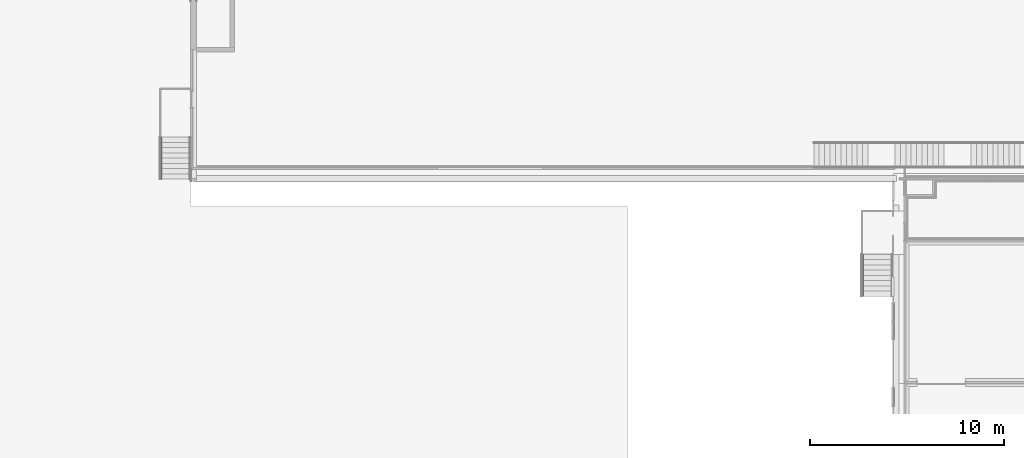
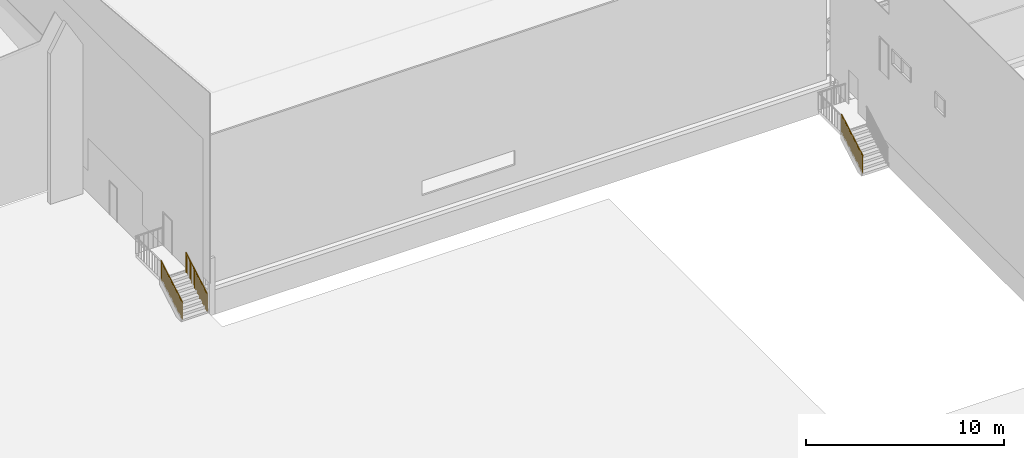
# One storey, part 56 of 64: 3 railings, 2 elements without a shape of their own.
"""IFC2X3 building model written with IfcOpenShell, lengths in millimetres."""

from ifc_helpers import new_model, entity, si_unit, converted_unit, derived_unit, direction, frame, origin, place, context, subcontext, project, spatial, polyline, outline, extrude, element, aggregate, save


model = new_model("IFC2X3")

# Units and contexts
model_context = context("Model", 3, precision=0.01, world=origin(), true_north=direction((4.05803320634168e-15, -1.0)))
body_context = subcontext(model_context, "Body", "Model", "MODEL_VIEW")
ifc_project = project(units=[si_unit("LENGTHUNIT", "METRE", prefix="MILLI"), si_unit("AREAUNIT", "SQUARE_METRE"), si_unit("VOLUMEUNIT", "CUBIC_METRE"), converted_unit("PLANEANGLEUNIT", "DEGREE", entity("IfcRatioMeasure", 0.0174532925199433), si_unit("PLANEANGLEUNIT", "RADIAN"), dimensions=[0, 0, 0, 0, 0, 0, 0]), si_unit("MASSUNIT", "GRAM", prefix="KILO"), derived_unit("MASSDENSITYUNIT", [(si_unit("MASSUNIT", "GRAM", prefix="KILO"), 1), (si_unit("LENGTHUNIT", "METRE"), -3)]), si_unit("TIMEUNIT", "SECOND"), si_unit("FREQUENCYUNIT", "HERTZ"), si_unit("THERMODYNAMICTEMPERATUREUNIT", "DEGREE_CELSIUS"), derived_unit("THERMALTRANSMITTANCEUNIT", [(si_unit("MASSUNIT", "GRAM", prefix="KILO"), 1), (si_unit("THERMODYNAMICTEMPERATUREUNIT", "KELVIN"), -1), (si_unit("TIMEUNIT", "SECOND"), -3)]), derived_unit("VOLUMETRICFLOWRATEUNIT", [(si_unit("LENGTHUNIT", "METRE"), 3), (si_unit("TIMEUNIT", "SECOND"), -1)]), si_unit("ELECTRICCURRENTUNIT", "AMPERE"), si_unit("ELECTRICVOLTAGEUNIT", "VOLT"), si_unit("POWERUNIT", "WATT"), si_unit("FORCEUNIT", "NEWTON", prefix="KILO"), si_unit("ILLUMINANCEUNIT", "LUX"), si_unit("LUMINOUSFLUXUNIT", "LUMEN"), si_unit("LUMINOUSINTENSITYUNIT", "CANDELA"), derived_unit("USERDEFINED", [(si_unit("MASSUNIT", "GRAM", prefix="KILO"), -1), (si_unit("LENGTHUNIT", "METRE"), -2), (si_unit("TIMEUNIT", "SECOND"), 3), (si_unit("LUMINOUSFLUXUNIT", "LUMEN"), 1)]), derived_unit("LINEARVELOCITYUNIT", [(si_unit("LENGTHUNIT", "METRE"), 1), (si_unit("TIMEUNIT", "SECOND"), -1)]), si_unit("PRESSUREUNIT", "PASCAL"), derived_unit("USERDEFINED", [(si_unit("LENGTHUNIT", "METRE"), -2), (si_unit("MASSUNIT", "GRAM", prefix="KILO"), 1), (si_unit("TIMEUNIT", "SECOND"), -2)])], contexts=[model_context])

# Site, building, storey
site_placement = place(None, frame((927466.849349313, 583801.882853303, 0.0), z_axis=(0.0, 0.0, 1.0), x_axis=(-1.0, 0.0, 0.0)))
site = spatial("IfcSite", under=ifc_project, at=site_placement, Name="Surface", CompositionType="ELEMENT")
building_placement = place(site_placement, origin())
building = spatial("IfcBuilding", under=site, at=building_placement, CompositionType="ELEMENT")
storey_placement = place(building_placement, frame((0.0, 0.0, 44170.0)))
storey = spatial("IfcBuildingStorey", under=building, at=storey_placement, Name="Ground FFL", CompositionType="ELEMENT", Elevation=44170.0)

# Stair, railings
stair_1_placement = place(storey_placement, origin())
stair_1 = element("IfcStair", 1, at=stair_1_placement, inside=storey, Name="Assembled Stair:Stair", ObjectType="Assembled Stair:170mm max riser 270mm going", ShapeType="NOTDEFINED")
railing_1_placement = place(stair_1_placement, frame((0.0, 0.0, -1360.0)))
railing_1 = element("IfcRailing", 2, at=railing_1_placement, Name="Railing:1100mm", ObjectType="Railing:1100mm", PredefinedType="NOTDEFINED", context=body_context, shape_type="SweptSolid", body=[
    extrude(outline(polyline([(274.855355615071, -502.110036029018), (303.707648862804, -502.110036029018), (-278.450474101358, 508.350134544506), (-300.112530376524, 495.869937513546), (274.855355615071, -502.110036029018)])), frame((-44536.1423298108, 9884.68083215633, 1783.92548453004), z_axis=(1.0, 0.0, 0.0), x_axis=(0.0, -0.866482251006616, 0.499207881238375)), (0.0, 0.0, 1.0), 24.9999999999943),
    extrude(outline(polyline([(255.441715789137, -468.413504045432), (284.29400903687, -468.413504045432), (-259.03683427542, 474.653602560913), (-280.698890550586, 462.173405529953), (255.441715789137, -468.413504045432)])), frame((-44536.1423298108, 10019.6808321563, 1745.03659564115), z_axis=(1.0, 0.0, 0.0), x_axis=(0.0, -0.866482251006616, 0.499207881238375)), (0.0, 0.0, 1.0), 24.9999999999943),
    extrude(outline(polyline([(274.855355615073, -502.110036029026), (303.707648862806, -502.110036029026), (-278.450474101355, 508.350134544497), (-300.112530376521, 495.869937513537), (274.855355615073, -502.110036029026)])), frame((-44536.1423298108, 10154.6808321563, 1628.36992897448), z_axis=(1.0, 0.0, 0.0), x_axis=(0.0, -0.866482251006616, 0.499207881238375)), (0.0, 0.0, 1.0), 24.9999999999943),
    extrude(outline(polyline([(255.441715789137, -468.413504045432), (284.29400903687, -468.413504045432), (-259.03683427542, 474.653602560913), (-280.698890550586, 462.173405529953), (255.441715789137, -468.413504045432)])), frame((-44536.1423298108, 10289.6808321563, 1589.48104008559), z_axis=(1.0, 0.0, 0.0), x_axis=(0.0, -0.866482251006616, 0.499207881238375)), (0.0, 0.0, 1.0), 24.9999999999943),
    extrude(outline(polyline([(274.855355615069, -502.110036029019), (303.707648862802, -502.110036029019), (-278.45047410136, 508.350134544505), (-300.112530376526, 495.869937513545), (274.855355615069, -502.110036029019)])), frame((-44536.1423298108, 10424.6808321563, 1472.81437341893), z_axis=(1.0, 0.0, 0.0), x_axis=(0.0, -0.866482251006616, 0.499207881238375)), (0.0, 0.0, 1.0), 24.9999999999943),
    extrude(outline(polyline([(255.441715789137, -468.413504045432), (284.29400903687, -468.413504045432), (-259.03683427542, 474.653602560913), (-280.698890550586, 462.173405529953), (255.441715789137, -468.413504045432)])), frame((-44536.1423298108, 10559.6808321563, 1433.92548453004), z_axis=(1.0, 0.0, 0.0), x_axis=(0.0, -0.866482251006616, 0.499207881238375)), (0.0, 0.0, 1.0), 24.9999999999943),
    extrude(outline(polyline([(274.855355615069, -502.110036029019), (303.707648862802, -502.110036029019), (-278.45047410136, 508.350134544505), (-300.112530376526, 495.869937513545), (274.855355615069, -502.110036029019)])), frame((-44536.1423298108, 10694.6808321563, 1317.25881786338), z_axis=(1.0, 0.0, 0.0), x_axis=(0.0, -0.866482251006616, 0.499207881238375)), (0.0, 0.0, 1.0), 24.9999999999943),
    extrude(outline(polyline([(255.441715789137, -468.413504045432), (284.29400903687, -468.413504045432), (-259.03683427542, 474.653602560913), (-280.698890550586, 462.173405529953), (255.441715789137, -468.413504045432)])), frame((-44536.1423298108, 10829.6808321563, 1278.36992897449), z_axis=(1.0, 0.0, 0.0), x_axis=(0.0, -0.866482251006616, 0.499207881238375)), (0.0, 0.0, 1.0), 24.9999999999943),
    extrude(outline(polyline([(274.855355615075, -502.110036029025), (303.707648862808, -502.110036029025), (-278.450474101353, 508.350134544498), (-300.11253037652, 495.869937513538), (274.855355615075, -502.110036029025)])), frame((-44536.1423298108, 10964.6808321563, 1161.70326230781), z_axis=(1.0, 0.0, 0.0), x_axis=(0.0, -0.866482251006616, 0.499207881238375)), (0.0, 0.0, 1.0), 24.9999999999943),
    extrude(outline(polyline([(255.441715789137, -468.413504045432), (284.29400903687, -468.413504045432), (-259.03683427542, 474.653602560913), (-280.698890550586, 462.173405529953), (255.441715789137, -468.413504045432)])), frame((-44536.1423298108, 11099.6808321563, 1122.81437341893), z_axis=(1.0, 0.0, 0.0), x_axis=(0.0, -0.866482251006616, 0.499207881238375)), (0.0, 0.0, 1.0), 24.9999999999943),
    extrude(outline(polyline([(274.855355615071, -502.110036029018), (303.707648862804, -502.110036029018), (-278.450474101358, 508.350134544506), (-300.112530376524, 495.869937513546), (274.855355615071, -502.110036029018)])), frame((-44536.1423298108, 11234.6808321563, 1006.14770675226), z_axis=(1.0, 0.0, 0.0), x_axis=(0.0, -0.866482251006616, 0.499207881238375)), (0.0, 0.0, 1.0), 24.9999999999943),
    extrude(outline(polyline([(255.441715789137, -468.413504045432), (284.29400903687, -468.413504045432), (-259.03683427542, 474.653602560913), (-280.698890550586, 462.173405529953), (255.441715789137, -468.413504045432)])), frame((-44536.1423298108, 11369.6808321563, 967.258817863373), z_axis=(1.0, 0.0, 0.0), x_axis=(0.0, -0.866482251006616, 0.499207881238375)), (0.0, 0.0, 1.0), 24.9999999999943),
    extrude(outline(polyline([(274.855355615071, -502.110036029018), (303.707648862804, -502.110036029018), (-278.450474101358, 508.350134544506), (-300.112530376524, 495.869937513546), (274.855355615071, -502.110036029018)])), frame((-44536.1423298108, 11504.6808321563, 850.592151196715), z_axis=(1.0, 0.0, 0.0), x_axis=(0.0, -0.866482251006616, 0.499207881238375)), (0.0, 0.0, 1.0), 24.9999999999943),
    extrude(outline(polyline([(255.441715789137, -468.413504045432), (284.29400903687, -468.413504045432), (-259.03683427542, 474.653602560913), (-280.698890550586, 462.173405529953), (255.441715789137, -468.413504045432)])), frame((-44536.1423298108, 11639.6808321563, 811.703262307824), z_axis=(1.0, 0.0, 0.0), x_axis=(0.0, -0.866482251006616, 0.499207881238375)), (0.0, 0.0, 1.0), 24.9999999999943),
    extrude(outline(polyline([(274.855355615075, -502.110036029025), (303.707648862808, -502.110036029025), (-278.450474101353, 508.350134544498), (-300.11253037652, 495.869937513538), (274.855355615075, -502.110036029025)])), frame((-44536.1423298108, 11774.6808321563, 695.036595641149), z_axis=(1.0, 0.0, 0.0), x_axis=(0.0, -0.866482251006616, 0.499207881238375)), (0.0, 0.0, 1.0), 24.9999999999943),
    extrude(outline(polyline([(255.441715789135, -468.413504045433), (284.294009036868, -468.413504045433), (-259.036834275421, 474.653602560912), (-280.698890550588, 462.173405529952), (255.441715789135, -468.413504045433)])), frame((-44536.1423298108, 11909.6808321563, 656.147706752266), z_axis=(1.0, 0.0, 0.0), x_axis=(0.0, -0.866482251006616, 0.499207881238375)), (0.0, 0.0, 1.0), 24.9999999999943),
    extrude(outline(polyline([(282.7646162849, -515.838252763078), (311.616909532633, -515.838252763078), (-286.359734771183, 522.078351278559), (-308.021791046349, 509.598154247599), (282.7646162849, -515.838252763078)])), frame((-44536.1423298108, 9829.68083215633, 1799.76910592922), z_axis=(1.0, 0.0, 0.0), x_axis=(0.0, -0.866482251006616, 0.499207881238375)), (0.0, 0.0, 1.0), 24.9999999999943),
    extrude(outline(polyline([(247.532455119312, -454.685287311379), (276.384748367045, -454.685287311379), (-251.127573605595, 460.92538582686), (-272.789629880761, 448.4451887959), (247.532455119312, -454.685287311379)])), frame((-44536.1423298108, 11964.6808321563, 640.304085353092), z_axis=(1.0, 0.0, 0.0), x_axis=(0.0, -0.866482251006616, 0.499207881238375)), (0.0, 0.0, 1.0), 24.9999999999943),
    extrude(outline(polyline([(-1232.01577612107, -25.0), (1260.8223604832, -25.0), (1232.01577612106, 25.0), (-1260.82236048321, 25.0), (-1232.01577612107, -25.0)])), frame((-44548.6423298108, 10897.1808321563, 1808.92548453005), z_axis=(1.0, 0.0, 0.0), x_axis=(0.0, -0.866482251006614, 0.499207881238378)), (0.0, 0.0, 1.0), 50.0000000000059),
])
railing_2_placement = place(stair_1_placement, frame((0.0, 0.0, -1360.0)))
railing_2 = element("IfcRailing", 3, at=railing_2_placement, Name="Railing:1100mm", ObjectType="Railing:1100mm", PredefinedType="NOTDEFINED", context=body_context, shape_type="SweptSolid", body=[
    extrude(outline(polyline([(-579.481040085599, -12.4999999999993), (572.279393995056, -12.4999999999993), (586.682686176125, 12.5000000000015), (-579.481040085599, 12.5000000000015), (-579.481040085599, -12.4999999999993)])), frame((-43086.9423298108, 9884.68083215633, 1783.92548453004), z_axis=(1.0, 0.0, 0.0), x_axis=(0.0, 0.0, 1.0)), (0.0, 0.0, 1.0), 24.9999999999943),
    extrude(outline(polyline([(-540.592151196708, -12.5000000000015), (533.390505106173, -12.5000000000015), (547.793797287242, 12.4999999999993), (-540.592151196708, 12.4999999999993), (-540.592151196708, -12.5000000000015)])), frame((-43086.9423298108, 10019.6808321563, 1745.03659564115), z_axis=(1.0, 0.0, 0.0), x_axis=(0.0, 0.0, 1.0)), (0.0, 0.0, 1.0), 24.9999999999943),
    extrude(outline(polyline([(-579.481040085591, -12.4999999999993), (572.279393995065, -12.4999999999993), (586.682686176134, 12.5000000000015), (-579.481040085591, 12.5000000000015), (-579.481040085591, -12.4999999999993)])), frame((-43086.9423298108, 10154.6808321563, 1628.36992897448), z_axis=(1.0, 0.0, 0.0), x_axis=(0.0, 0.0, 1.0)), (0.0, 0.0, 1.0), 24.9999999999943),
    extrude(outline(polyline([(-540.592151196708, -12.4999999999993), (533.390505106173, -12.4999999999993), (547.793797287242, 12.5000000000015), (-540.592151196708, 12.5000000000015), (-540.592151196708, -12.4999999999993)])), frame((-43086.9423298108, 10289.6808321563, 1589.48104008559), z_axis=(1.0, 0.0, 0.0), x_axis=(0.0, 0.0, 1.0)), (0.0, 0.0, 1.0), 24.9999999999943),
    extrude(outline(polyline([(-579.481040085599, -12.4999999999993), (572.279393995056, -12.4999999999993), (586.682686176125, 12.5000000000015), (-579.481040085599, 12.5000000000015), (-579.481040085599, -12.4999999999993)])), frame((-43086.9423298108, 10424.6808321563, 1472.81437341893), z_axis=(1.0, 0.0, 0.0), x_axis=(0.0, 0.0, 1.0)), (0.0, 0.0, 1.0), 24.9999999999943),
    extrude(outline(polyline([(-540.592151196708, -12.4999999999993), (533.390505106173, -12.4999999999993), (547.793797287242, 12.5000000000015), (-540.592151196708, 12.5000000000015), (-540.592151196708, -12.4999999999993)])), frame((-43086.9423298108, 10559.6808321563, 1433.92548453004), z_axis=(1.0, 0.0, 0.0), x_axis=(0.0, 0.0, 1.0)), (0.0, 0.0, 1.0), 24.9999999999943),
    extrude(outline(polyline([(-579.481040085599, -12.4999999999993), (572.279393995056, -12.4999999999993), (586.682686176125, 12.5000000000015), (-579.481040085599, 12.5000000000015), (-579.481040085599, -12.4999999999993)])), frame((-43086.9423298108, 10694.6808321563, 1317.25881786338), z_axis=(1.0, 0.0, 0.0), x_axis=(0.0, 0.0, 1.0)), (0.0, 0.0, 1.0), 24.9999999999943),
    extrude(outline(polyline([(-540.592151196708, -12.4999999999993), (533.390505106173, -12.4999999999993), (547.793797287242, 12.5000000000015), (-540.592151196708, 12.5000000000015), (-540.592151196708, -12.4999999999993)])), frame((-43086.9423298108, 10829.6808321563, 1278.36992897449), z_axis=(1.0, 0.0, 0.0), x_axis=(0.0, 0.0, 1.0)), (0.0, 0.0, 1.0), 24.9999999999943),
    extrude(outline(polyline([(-579.481040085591, -12.5000000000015), (572.279393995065, -12.5000000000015), (586.682686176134, 12.4999999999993), (-579.481040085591, 12.4999999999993), (-579.481040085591, -12.5000000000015)])), frame((-43086.9423298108, 10964.6808321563, 1161.70326230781), z_axis=(1.0, 0.0, 0.0), x_axis=(0.0, 0.0, 1.0)), (0.0, 0.0, 1.0), 24.9999999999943),
    extrude(outline(polyline([(-540.592151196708, -12.4999999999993), (533.390505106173, -12.4999999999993), (547.793797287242, 12.5000000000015), (-540.592151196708, 12.5000000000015), (-540.592151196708, -12.4999999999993)])), frame((-43086.9423298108, 11099.6808321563, 1122.81437341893), z_axis=(1.0, 0.0, 0.0), x_axis=(0.0, 0.0, 1.0)), (0.0, 0.0, 1.0), 24.9999999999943),
    extrude(outline(polyline([(-579.481040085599, -12.5000000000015), (572.279393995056, -12.5000000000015), (586.682686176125, 12.4999999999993), (-579.481040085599, 12.4999999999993), (-579.481040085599, -12.5000000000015)])), frame((-43086.9423298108, 11234.6808321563, 1006.14770675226), z_axis=(1.0, 0.0, 0.0), x_axis=(0.0, 0.0, 1.0)), (0.0, 0.0, 1.0), 24.9999999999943),
    extrude(outline(polyline([(-540.592151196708, -12.4999999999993), (533.390505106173, -12.4999999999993), (547.793797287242, 12.5000000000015), (-540.592151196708, 12.5000000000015), (-540.592151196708, -12.4999999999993)])), frame((-43086.9423298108, 11369.6808321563, 967.258817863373), z_axis=(1.0, 0.0, 0.0), x_axis=(0.0, 0.0, 1.0)), (0.0, 0.0, 1.0), 24.9999999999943),
    extrude(outline(polyline([(-579.481040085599, -12.5000000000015), (572.279393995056, -12.5000000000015), (586.682686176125, 12.4999999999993), (-579.481040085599, 12.4999999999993), (-579.481040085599, -12.5000000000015)])), frame((-43086.9423298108, 11504.6808321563, 850.592151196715), z_axis=(1.0, 0.0, 0.0), x_axis=(0.0, 0.0, 1.0)), (0.0, 0.0, 1.0), 24.9999999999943),
    extrude(outline(polyline([(-540.592151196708, -12.4999999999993), (533.390505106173, -12.4999999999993), (547.793797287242, 12.5000000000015), (-540.592151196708, 12.5000000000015), (-540.592151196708, -12.4999999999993)])), frame((-43086.9423298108, 11639.6808321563, 811.703262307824), z_axis=(1.0, 0.0, 0.0), x_axis=(0.0, 0.0, 1.0)), (0.0, 0.0, 1.0), 24.9999999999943),
    extrude(outline(polyline([(-579.481040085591, -12.4999999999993), (572.279393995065, -12.4999999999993), (586.682686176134, 12.5000000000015), (-579.481040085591, 12.5000000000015), (-579.481040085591, -12.4999999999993)])), frame((-43086.9423298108, 11774.6808321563, 695.036595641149), z_axis=(1.0, 0.0, 0.0), x_axis=(0.0, 0.0, 1.0)), (0.0, 0.0, 1.0), 24.9999999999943),
    extrude(outline(polyline([(-540.592151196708, -12.4999999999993), (533.390505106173, -12.4999999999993), (547.793797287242, 12.5000000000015), (-540.592151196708, 12.5000000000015), (-540.592151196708, -12.4999999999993)])), frame((-43086.9423298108, 11909.6808321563, 656.147706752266), z_axis=(1.0, 0.0, 0.0), x_axis=(0.0, 0.0, 1.0)), (0.0, 0.0, 1.0), 24.9999999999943),
    extrude(outline(polyline([(-595.324661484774, -12.5000000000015), (588.123015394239, -12.5000000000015), (602.526307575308, 12.4999999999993), (-595.324661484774, 12.4999999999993), (-595.324661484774, -12.5000000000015)])), frame((-43086.9423298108, 9829.68083215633, 1799.76910592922), z_axis=(1.0, 0.0, 0.0), x_axis=(0.0, 0.0, 1.0)), (0.0, 0.0, 1.0), 24.9999999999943),
    extrude(outline(polyline([(-524.748529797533, -12.4999999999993), (517.546883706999, -12.4999999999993), (531.950175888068, 12.5000000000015), (-524.748529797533, 12.5000000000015), (-524.748529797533, -12.4999999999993)])), frame((-43086.9423298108, 11964.6808321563, 640.304085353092), z_axis=(1.0, 0.0, 0.0), x_axis=(0.0, 0.0, 1.0)), (0.0, 0.0, 1.0), 24.9999999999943),
    extrude(outline(polyline([(-1232.01577612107, -25.0), (1260.8223604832, -25.0), (1232.01577612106, 25.0), (-1260.82236048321, 25.0), (-1232.01577612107, -25.0)])), frame((-43099.4423298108, 10897.1808321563, 1808.92548453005), z_axis=(1.0, 0.0, 0.0), x_axis=(0.0, -0.866482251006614, 0.499207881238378)), (0.0, 0.0, 1.0), 50.0000000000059),
])
aggregate(stair_1, [railing_1, railing_2])

# Stair, railing
stair_2_placement = place(storey_placement, origin())
stair_2 = element("IfcStair", 4, at=stair_2_placement, inside=storey, Name="Assembled Stair:Stair", ObjectType="Assembled Stair:170mm max riser 270mm going", ShapeType="NOTDEFINED")
railing_3_placement = place(stair_2_placement, frame((0.0, 0.0, -1360.0)))
railing_3 = element("IfcRailing", 5, at=railing_3_placement, Name="Railing:1100mm", ObjectType="Railing:1100mm", PredefinedType="NOTDEFINED", context=body_context, shape_type="SweptSolid", body=[
    extrude(outline(polyline([(-579.481040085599, -12.4999999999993), (572.279393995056, -12.4999999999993), (586.682686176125, 12.5000000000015), (-579.481040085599, 12.5000000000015), (-579.481040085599, -12.4999999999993)])), frame((-79243.5913038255, 15924.9703266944, 1783.92548453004), z_axis=(1.0, 0.0, 0.0), x_axis=(0.0, 0.0, 1.0)), (0.0, 0.0, 1.0), 25.0000000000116),
    extrude(outline(polyline([(-540.592151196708, -12.4999999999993), (533.390505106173, -12.4999999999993), (547.793797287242, 12.5000000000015), (-540.592151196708, 12.5000000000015), (-540.592151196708, -12.4999999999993)])), frame((-79243.5913038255, 16059.9703266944, 1745.03659564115), z_axis=(1.0, 0.0, 0.0), x_axis=(0.0, 0.0, 1.0)), (0.0, 0.0, 1.0), 25.0000000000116),
    extrude(outline(polyline([(-579.481040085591, -12.5000000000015), (572.279393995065, -12.5000000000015), (586.682686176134, 12.4999999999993), (-579.481040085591, 12.4999999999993), (-579.481040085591, -12.5000000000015)])), frame((-79243.5913038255, 16194.9703266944, 1628.36992897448), z_axis=(1.0, 0.0, 0.0), x_axis=(0.0, 0.0, 1.0)), (0.0, 0.0, 1.0), 25.0000000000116),
    extrude(outline(polyline([(-540.592151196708, -12.4999999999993), (533.390505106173, -12.4999999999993), (547.793797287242, 12.5000000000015), (-540.592151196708, 12.5000000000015), (-540.592151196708, -12.4999999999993)])), frame((-79243.5913038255, 16329.9703266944, 1589.48104008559), z_axis=(1.0, 0.0, 0.0), x_axis=(0.0, 0.0, 1.0)), (0.0, 0.0, 1.0), 25.0000000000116),
    extrude(outline(polyline([(-579.481040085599, -12.5000000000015), (572.279393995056, -12.5000000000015), (586.682686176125, 12.4999999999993), (-579.481040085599, 12.4999999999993), (-579.481040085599, -12.5000000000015)])), frame((-79243.5913038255, 16464.9703266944, 1472.81437341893), z_axis=(1.0, 0.0, 0.0), x_axis=(0.0, 0.0, 1.0)), (0.0, 0.0, 1.0), 25.0000000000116),
    extrude(outline(polyline([(-540.592151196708, -12.4999999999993), (533.390505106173, -12.4999999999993), (547.793797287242, 12.5000000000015), (-540.592151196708, 12.5000000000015), (-540.592151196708, -12.4999999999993)])), frame((-79243.5913038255, 16599.9703266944, 1433.92548453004), z_axis=(1.0, 0.0, 0.0), x_axis=(0.0, 0.0, 1.0)), (0.0, 0.0, 1.0), 25.0000000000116),
    extrude(outline(polyline([(-579.481040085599, -12.5000000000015), (572.279393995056, -12.5000000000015), (586.682686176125, 12.4999999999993), (-579.481040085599, 12.4999999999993), (-579.481040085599, -12.5000000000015)])), frame((-79243.5913038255, 16734.9703266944, 1317.25881786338), z_axis=(1.0, 0.0, 0.0), x_axis=(0.0, 0.0, 1.0)), (0.0, 0.0, 1.0), 25.0000000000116),
    extrude(outline(polyline([(-540.592151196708, -12.4999999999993), (533.390505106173, -12.4999999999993), (547.793797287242, 12.5000000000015), (-540.592151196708, 12.5000000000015), (-540.592151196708, -12.4999999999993)])), frame((-79243.5913038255, 16869.9703266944, 1278.36992897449), z_axis=(1.0, 0.0, 0.0), x_axis=(0.0, 0.0, 1.0)), (0.0, 0.0, 1.0), 25.0000000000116),
    extrude(outline(polyline([(-579.481040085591, -12.4999999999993), (572.279393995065, -12.4999999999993), (586.682686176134, 12.5000000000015), (-579.481040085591, 12.5000000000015), (-579.481040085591, -12.4999999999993)])), frame((-79243.5913038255, 17004.9703266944, 1161.70326230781), z_axis=(1.0, 0.0, 0.0), x_axis=(0.0, 0.0, 1.0)), (0.0, 0.0, 1.0), 25.0000000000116),
    extrude(outline(polyline([(-540.592151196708, -12.4999999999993), (533.390505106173, -12.4999999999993), (547.793797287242, 12.5000000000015), (-540.592151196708, 12.5000000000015), (-540.592151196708, -12.4999999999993)])), frame((-79243.5913038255, 17139.9703266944, 1122.81437341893), z_axis=(1.0, 0.0, 0.0), x_axis=(0.0, 0.0, 1.0)), (0.0, 0.0, 1.0), 25.0000000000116),
    extrude(outline(polyline([(-579.481040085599, -12.4999999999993), (572.279393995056, -12.4999999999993), (586.682686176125, 12.5000000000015), (-579.481040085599, 12.5000000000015), (-579.481040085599, -12.4999999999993)])), frame((-79243.5913038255, 17274.9703266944, 1006.14770675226), z_axis=(1.0, 0.0, 0.0), x_axis=(0.0, 0.0, 1.0)), (0.0, 0.0, 1.0), 25.0000000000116),
    extrude(outline(polyline([(-540.592151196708, -12.5000000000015), (533.390505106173, -12.5000000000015), (547.793797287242, 12.4999999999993), (-540.592151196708, 12.4999999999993), (-540.592151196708, -12.5000000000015)])), frame((-79243.5913038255, 17409.9703266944, 967.258817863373), z_axis=(1.0, 0.0, 0.0), x_axis=(0.0, 0.0, 1.0)), (0.0, 0.0, 1.0), 25.0000000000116),
    extrude(outline(polyline([(-579.481040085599, -12.4999999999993), (572.279393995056, -12.4999999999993), (586.682686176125, 12.5000000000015), (-579.481040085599, 12.5000000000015), (-579.481040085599, -12.4999999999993)])), frame((-79243.5913038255, 17544.9703266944, 850.592151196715), z_axis=(1.0, 0.0, 0.0), x_axis=(0.0, 0.0, 1.0)), (0.0, 0.0, 1.0), 25.0000000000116),
    extrude(outline(polyline([(-540.592151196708, -12.5000000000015), (533.390505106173, -12.5000000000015), (547.793797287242, 12.4999999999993), (-540.592151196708, 12.4999999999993), (-540.592151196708, -12.5000000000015)])), frame((-79243.5913038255, 17679.9703266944, 811.703262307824), z_axis=(1.0, 0.0, 0.0), x_axis=(0.0, 0.0, 1.0)), (0.0, 0.0, 1.0), 25.0000000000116),
    extrude(outline(polyline([(-579.481040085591, -12.4999999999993), (572.279393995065, -12.4999999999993), (586.682686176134, 12.5000000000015), (-579.481040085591, 12.5000000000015), (-579.481040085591, -12.4999999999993)])), frame((-79243.5913038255, 17814.9703266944, 695.036595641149), z_axis=(1.0, 0.0, 0.0), x_axis=(0.0, 0.0, 1.0)), (0.0, 0.0, 1.0), 25.0000000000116),
    extrude(outline(polyline([(-540.592151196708, -12.5000000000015), (533.390505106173, -12.5000000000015), (547.793797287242, 12.4999999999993), (-540.592151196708, 12.4999999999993), (-540.592151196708, -12.5000000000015)])), frame((-79243.5913038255, 17949.9703266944, 656.147706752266), z_axis=(1.0, 0.0, 0.0), x_axis=(0.0, 0.0, 1.0)), (0.0, 0.0, 1.0), 25.0000000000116),
    extrude(outline(polyline([(-595.324661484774, -12.4999999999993), (588.123015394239, -12.4999999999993), (602.526307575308, 12.5000000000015), (-595.324661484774, 12.5000000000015), (-595.324661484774, -12.4999999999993)])), frame((-79243.5913038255, 15869.9703266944, 1799.76910592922), z_axis=(1.0, 0.0, 0.0), x_axis=(0.0, 0.0, 1.0)), (0.0, 0.0, 1.0), 25.0000000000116),
    extrude(outline(polyline([(-524.748529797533, -12.4999999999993), (517.546883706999, -12.4999999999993), (531.950175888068, 12.5000000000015), (-524.748529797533, 12.5000000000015), (-524.748529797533, -12.4999999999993)])), frame((-79243.5913038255, 18004.9703266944, 640.304085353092), z_axis=(1.0, 0.0, 0.0), x_axis=(0.0, 0.0, 1.0)), (0.0, 0.0, 1.0), 25.0000000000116),
    extrude(outline(polyline([(-1232.01577612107, -25.0), (1260.8223604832, -25.0), (1232.01577612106, 25.0), (-1260.82236048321, 25.0), (-1232.01577612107, -25.0)])), frame((-79256.0913038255, 16937.4703266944, 1808.92548453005), z_axis=(1.0, 0.0, 0.0), x_axis=(0.0, -0.866482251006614, 0.499207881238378)), (0.0, 0.0, 1.0), 49.9999999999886),
])
aggregate(stair_2, [railing_3])

save(model, "model.ifc")
